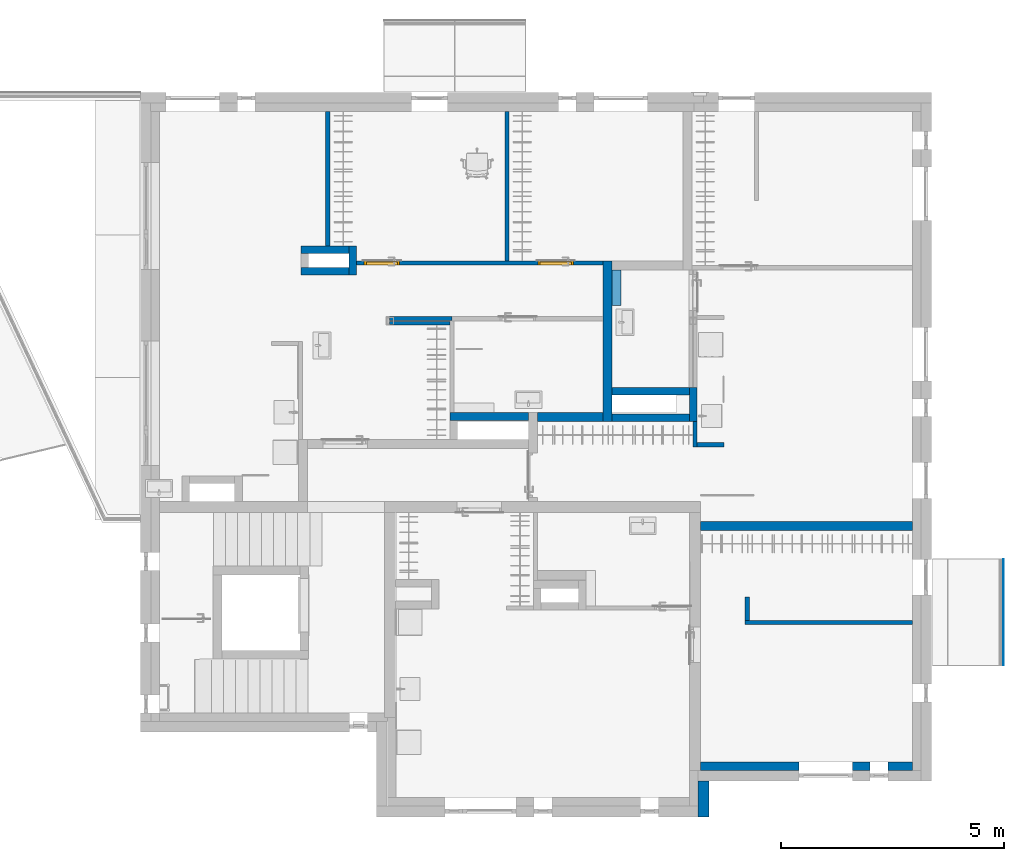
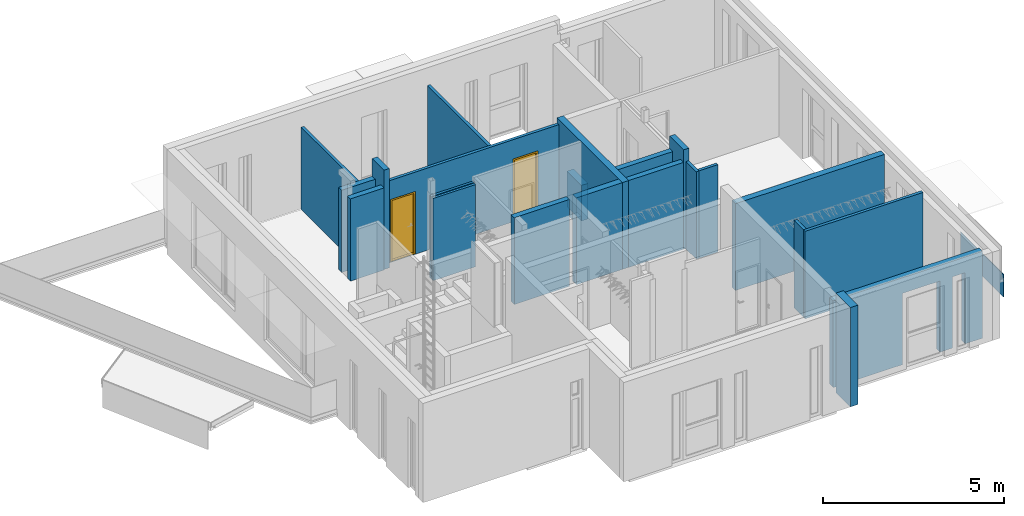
# One storey, part 4 of 42: 23 walls, 2 doors, 12 openings.
"""IFC2X3 building model written with IfcOpenShell, lengths in millimetres."""

from ifc_helpers import new_model, entity, si_unit, converted_unit, direction, frame, frame_2d, origin, place, context, subcontext, project, spatial, polyline, rectangle, extrude, clip, bounded_halfspace, faceted_brep, source, transform, mapped, material, layer, layer_set, layer_usage, type_object, type_shapes, element, fill, save


model = new_model("IFC2X3")

# Units and contexts
model_context = context("Model", 3, precision=0.01, world=origin(), true_north=direction((6.123233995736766e-17, 1.0)))
plan_context = context("Plan", 3, precision=0.01, world=origin(), true_north=direction((6.123233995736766e-17, 1.0)))
body_context = subcontext(model_context, "Body", "Model", "MODEL_VIEW")
ifc_project = project(units=[si_unit("LENGTHUNIT", "METRE", prefix="MILLI"), converted_unit("PLANEANGLEUNIT", "DEGREE", entity("IfcPlaneAngleMeasure", 0.017453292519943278), si_unit("PLANEANGLEUNIT", "RADIAN"), dimensions=[0, 0, 0, 0, 0, 0, 0]), si_unit("AREAUNIT", "SQUARE_METRE")], contexts=[model_context, plan_context])

# Site, building, storey
site_placement = place(None, origin())
site = spatial("IfcSite", under=ifc_project, at=site_placement, Name="Default", CompositionType="ELEMENT")
building_placement = place(site_placement, origin())
building = spatial("IfcBuilding", under=site, at=building_placement, CompositionType="ELEMENT")
storey_placement = place(building_placement, frame((0.0, 0.0, 9465.000076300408)))
storey = spatial("IfcBuildingStorey", under=building, at=storey_placement, Name="4K", CompositionType="ELEMENT", Elevation=9465.000076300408)

# Walls
ifc_material_1 = material(Name="_K. Väisviimistlus. Krohv. Valge")
ifc_layer_1 = layer(ifc_material_1, 5.0)
ifc_material_2 = material(Name="_K. Müüritis. Väikeplokk. Betoon-õõnesplokk")
ifc_layer_2 = layer(ifc_material_2, 190.00000000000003)
ifc_layer_3 = layer(ifc_material_1, 5.0)
ifc_layer_set_1 = layer_set([ifc_layer_1, ifc_layer_2, ifc_layer_3], Name="Basic Wall:SS-01. 190")
ifc_layer_usage_1 = layer_usage(ifc_layer_set_1, "AXIS2", "POSITIVE", -100.00000000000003)
wall_type_1 = type_object("IfcWallType", Name="Basic Wall:SS-01. 190", PredefinedType="STANDARD", material=ifc_layer_set_1)
wall_1_placement = place(storey_placement, frame((10050.0, 12046.0, 0.0), z_axis=(0.0, 0.0, 1.0), x_axis=(0.0, -1.0, 0.0)))
element("IfcWallStandardCase", 1, at=wall_1_placement, inside=storey, type_object=wall_type_1, material=ifc_layer_usage_1, Name="Basic Wall:SS-01. 190", ObjectType="Basic Wall:SS-01. 190", context=body_context, shape_type="SweptSolid", body=[
    extrude(rectangle(XDim=3605.9999999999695, YDim=200.0000000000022, at=frame_2d((1802.9999999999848, -4.973799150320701e-14), x_axis=(-1.0, 0.0))), origin(), (0.0, 0.0, 1.0), 2925.999923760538),
])
ifc_layer_usage_2 = layer_usage(ifc_layer_set_1, "AXIS2", "NEGATIVE", 100.00000000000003)
wall_2_placement = place(storey_placement, frame((8480.0, 8540.0, 0.0)))
element("IfcWallStandardCase", 2, at=wall_2_placement, inside=storey, type_object=wall_type_1, material=ifc_layer_usage_2, Name="Basic Wall:SS-01. 190", ObjectType="Basic Wall:SS-01. 190", context=body_context, shape_type="SweptSolid", body=[
    extrude(rectangle(XDim=1470.0000000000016, YDim=200.0, at=frame_2d((735.0000000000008, -1.6342482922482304e-13), x_axis=(-1.0, 0.0))), origin(), (0.0, 0.0, 1.0), 2925.999923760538),
])
ifc_layer_usage_3 = layer_usage(ifc_layer_set_1, "AXIS2", "NEGATIVE", 100.00000000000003)
wall_3_placement = place(storey_placement, frame((12144.993534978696, 6100.0, 0.0)))
element("IfcWallStandardCase", 3, at=wall_3_placement, inside=storey, type_object=wall_type_1, material=ifc_layer_usage_3, Name="Basic Wall:SS-01. 190", ObjectType="Basic Wall:SS-01. 190", context=body_context, shape_type="SweptSolid", body=[
    extrude(rectangle(XDim=4755.006465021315, YDim=200.0, at=frame_2d((2377.5032325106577, 7.815970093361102e-14), x_axis=(-1.0, 0.0))), origin(), (0.0, 0.0, 1.0), 2925.999923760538),
])

# Wall, openings
ifc_layer_4 = layer(ifc_material_2, 190.00000000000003)
ifc_layer_set_2 = layer_set([ifc_layer_4], Name="Basic Wall:Columbia 190mm")
ifc_layer_usage_4 = layer_usage(ifc_layer_set_2, "AXIS2", "NEGATIVE", 95.00000000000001)
wall_type_2 = type_object("IfcWallType", Name="Basic Wall:Columbia 190mm", PredefinedType="STANDARD", material=ifc_layer_set_2)
wall_4_placement = place(storey_placement, frame((16900.0, 705.0, 0.0), z_axis=(0.0, 0.0, 1.0), x_axis=(-1.0, 0.0, 0.0)))
wall_4 = element("IfcWallStandardCase", 4, at=wall_4_placement, inside=storey, type_object=wall_type_2, material=ifc_layer_usage_4, Name="Basic Wall:Columbia 190mm", ObjectType="Basic Wall:Columbia 190mm", context=body_context, shape_type="SweptSolid", body=[
    extrude(rectangle(XDim=4755.006465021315, YDim=190.0000000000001, at=frame_2d((2377.5032325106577, 7.105427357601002e-15), x_axis=(-1.0, 0.0))), origin(), (0.0, 0.0, 1.0), 2925.999923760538),
])
opening_1_placement = place(wall_4_placement, frame((16900.0, 705.0, 0.0)))
element("IfcOpeningElement", 5, at=opening_1_placement, cuts=wall_4, Name="Basic Wall:Columbia 190mm", ObjectType="Opening", context=body_context, shape_type="Brep", body=[
    faceted_brep([(-15950.0, -350.0, 2400.0), (-15950.0, -1044.0, 2400.0), (-15950.0, -1044.0, 0.0), (-15950.0, -460.0, 0.0), (-15950.0, -450.0, 0.0), (-15950.0, -350.0, 0.0), (-16350.0, -350.0, 2400.0), (-16350.0, -1044.0, 2400.0), (-16350.0, -350.0, 0.0), (-16350.0, -450.0, 0.0), (-16350.0, -460.0, 0.0), (-16350.0, -1044.0, 0.0)], [[[0, 1, 2, 3, 4, 5]], [[6, 7, 1, 0]], [[8, 9, 10, 11, 7, 6]], [[5, 4, 3, 2, 11, 10, 9, 8]], [[6, 0, 5, 8]], [[7, 11, 2, 1]]]),
])
opening_2_placement = place(wall_4_placement, frame((16900.0, 705.0, 0.0)))
element("IfcOpeningElement", 6, at=opening_2_placement, cuts=wall_4, Name="Basic Wall:Columbia 190mm", ObjectType="Opening", context=body_context, shape_type="Brep", body=[
    faceted_brep([(-14350.0, -350.0, 2400.0), (-14350.0, -1044.0, 2400.0), (-14350.0, -1044.0, 0.0), (-14350.0, -460.0, 0.0), (-14350.0, -450.0, 0.0), (-14350.0, -350.0, 0.0), (-15550.0, -350.0, 2400.0), (-15550.0, -1044.0, 2400.0), (-15550.0, -350.0, 0.0), (-15550.0, -450.0, 0.0), (-15550.0, -460.0, 0.0), (-15550.0, -1044.0, 0.0)], [[[0, 1, 2, 3, 4, 5]], [[6, 7, 1, 0]], [[8, 9, 10, 11, 7, 6]], [[5, 4, 3, 2, 11, 10, 9, 8]], [[6, 0, 5, 8]], [[7, 11, 2, 1]]]),
])

ifc_layer_5 = layer(ifc_material_1, 10.0)
ifc_material_3 = material(Name="_K. Soojustus. EPS Silver")
ifc_layer_6 = layer(ifc_material_3, 230.0)
ifc_layer_set_3 = layer_set([ifc_layer_5, ifc_layer_6], Name="Basic Wall:VS-01")
ifc_layer_usage_5 = layer_usage(ifc_layer_set_3, "AXIS2", "NEGATIVE", 120.0)
wall_type_3 = type_object("IfcWallType", Name="Basic Wall:VS-01", PredefinedType="STANDARD", material=ifc_layer_set_3)
wall_5_placement = place(storey_placement, frame((12210.0, 370.0, 0.0), z_axis=(0.0, 0.0, 1.0), x_axis=(0.0, -1.0, 0.0)))
wall_5 = element("IfcWallStandardCase", 7, at=wall_5_placement, inside=storey, type_object=wall_type_3, material=ifc_layer_usage_5, Name="Basic Wall:VS-01", ObjectType="Basic Wall:VS-01", context=body_context, shape_type="SweptSolid", body=[
    extrude(rectangle(XDim=799.9999999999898, YDim=240.00000000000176, at=frame_2d((399.9999999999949, 0.0), x_axis=(-1.0, 0.0))), origin(), (0.0, 0.0, 1.0), 3345.9999999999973),
])
opening_3_placement = place(wall_5_placement, frame((370.0, -12210.0, 3345.999923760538)))
element("IfcOpeningElement", 8, at=opening_3_placement, cuts=wall_5, Name="Basic Wall:VS-01", ObjectType="Opening", context=body_context, shape_type="Brep", body=[
    faceted_brep([(-13750.0, 12350.0, 2400.0), (-13750.0, 11656.0, 2400.0), (-13750.0, 11656.0, 0.0), (-13750.0, 12240.0, 0.0), (-13750.0, 12250.0, 0.0), (-13750.0, 12350.0, 0.0), (-14550.0, 12350.0, 2400.0), (-14550.0, 11656.0, 2400.0), (-14550.0, 12350.0, 0.0), (-14550.0, 12250.0, 0.0), (-14550.0, 12240.0, 0.0), (-14550.0, 11656.0, 0.0)], [[[0, 1, 2, 3, 4, 5]], [[6, 7, 1, 0]], [[8, 9, 10, 11, 7, 6]], [[5, 4, 3, 2, 11, 10, 9, 8]], [[6, 0, 5, 8]], [[7, 11, 2, 1]]]),
])
opening_4_placement = place(wall_5_placement, frame((370.0, -12210.0, 3345.999923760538)))
element("IfcOpeningElement", 9, at=opening_4_placement, cuts=wall_5, Name="Basic Wall:VS-01", ObjectType="Opening", context=body_context, shape_type="Brep", body=[
    faceted_brep([(-1900.0, 12350.0, 2400.0), (-1900.0, 11656.0, 2400.0), (-1900.0, 11656.0, 0.0), (-1900.0, 12240.0, 0.0), (-1900.0, 12250.0, 0.0), (-1900.0, 12350.0, 0.0), (-2700.0, 12350.0, 2400.0), (-2700.0, 11656.0, 2400.0), (-2700.0, 12350.0, 0.0), (-2700.0, 12250.0, 0.0), (-2700.0, 12240.0, 0.0), (-2700.0, 11656.0, 0.0)], [[[0, 1, 2, 3, 4, 5]], [[6, 7, 1, 0]], [[8, 9, 10, 11, 7, 6]], [[5, 4, 3, 2, 11, 10, 9, 8]], [[6, 0, 5, 8]], [[7, 11, 2, 1]]]),
])
opening_5_placement = place(wall_5_placement, frame((370.0, -12210.0, 3345.999923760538)))
element("IfcOpeningElement", 10, at=opening_5_placement, cuts=wall_5, Name="Basic Wall:VS-01", ObjectType="Opening", context=body_context, shape_type="Brep", body=[
    faceted_brep([(-5350.0, 12350.0, 2400.0), (-5350.0, 11656.0, 2400.0), (-5350.0, 11656.0, 0.0), (-5350.0, 12240.0, 0.0), (-5350.0, 12250.0, 0.0), (-5350.0, 12350.0, 0.0), (-6150.0, 12350.0, 2400.0), (-6150.0, 11656.0, 2400.0), (-6150.0, 12350.0, 0.0), (-6150.0, 12250.0, 0.0), (-6150.0, 12240.0, 0.0), (-6150.0, 11656.0, 0.0)], [[[0, 1, 2, 3, 4, 5]], [[6, 7, 1, 0]], [[8, 9, 10, 11, 7, 6]], [[5, 4, 3, 2, 11, 10, 9, 8]], [[6, 0, 5, 8]], [[7, 11, 2, 1]]]),
])
opening_6_placement = place(wall_5_placement, frame((370.0, -12210.0, 3345.999923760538)))
element("IfcOpeningElement", 11, at=opening_6_placement, cuts=wall_5, Name="Basic Wall:VS-01", ObjectType="Opening", context=body_context, shape_type="Brep", body=[
    faceted_brep([(-7240.0, 12350.0, 2400.0), (-7240.0, 11656.0, 2400.0), (-7240.0, 11656.0, 0.0), (-7240.0, 12240.0, 0.0), (-7240.0, 12250.0, 0.0), (-7240.0, 12350.0, 0.0), (-8440.0, 12350.0, 2400.0), (-8440.0, 11656.0, 2400.0), (-8440.0, 12350.0, 0.0), (-8440.0, 12250.0, 0.0), (-8440.0, 12240.0, 0.0), (-8440.0, 11656.0, 0.0)], [[[0, 1, 2, 3, 4, 5]], [[6, 7, 1, 0]], [[8, 9, 10, 11, 7, 6]], [[5, 4, 3, 2, 11, 10, 9, 8]], [[6, 0, 5, 8]], [[7, 11, 2, 1]]]),
])
opening_7_placement = place(wall_5_placement, frame((370.0, -12210.0, 3345.999923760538)))
element("IfcOpeningElement", 12, at=opening_7_placement, cuts=wall_5, Name="Basic Wall:VS-01", ObjectType="Opening", context=body_context, shape_type="Brep", body=[
    faceted_brep([(-12950.0, 12350.0, 2400.0), (-12950.0, 11656.0, 2400.0), (-12950.0, 11656.0, 0.0), (-12950.0, 12240.0, 0.0), (-12950.0, 12250.0, 0.0), (-12950.0, 12350.0, 0.0), (-13750.0, 12350.0, 2400.0), (-13750.0, 11656.0, 2400.0), (-13750.0, 12350.0, 0.0), (-13750.0, 12250.0, 0.0), (-13750.0, 12240.0, 0.0), (-13750.0, 11656.0, 0.0)], [[[0, 1, 2, 3, 4, 5]], [[6, 7, 1, 0]], [[8, 9, 10, 11, 7, 6]], [[5, 4, 3, 2, 11, 10, 9, 8]], [[6, 0, 5, 8]], [[7, 11, 2, 1]]]),
])
opening_8_placement = place(wall_5_placement, frame((370.0, -12210.0, 3345.999923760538)))
element("IfcOpeningElement", 13, at=opening_8_placement, cuts=wall_5, Name="Basic Wall:VS-01", ObjectType="Opening", context=body_context, shape_type="Brep", body=[
    faceted_brep([(-2700.0, 12350.0, 2400.0), (-2700.0, 11656.0, 2400.0), (-2700.0, 11656.0, 0.0), (-2700.0, 12240.0, 0.0), (-2700.0, 12250.0, 0.0), (-2700.0, 12350.0, 0.0), (-3500.0, 12350.0, 2400.0), (-3500.0, 11656.0, 2400.0), (-3500.0, 12350.0, 0.0), (-3500.0, 12250.0, 0.0), (-3500.0, 12240.0, 0.0), (-3500.0, 11656.0, 0.0)], [[[0, 1, 2, 3, 4, 5]], [[6, 7, 1, 0]], [[8, 9, 10, 11, 7, 6]], [[5, 4, 3, 2, 11, 10, 9, 8]], [[6, 0, 5, 8]], [[7, 11, 2, 1]]]),
])
opening_9_placement = place(wall_5_placement, frame((370.0, -12210.0, 0.0)))
element("IfcOpeningElement", 14, at=opening_9_placement, cuts=wall_5, Name="Basic Wall:VS-01", ObjectType="Opening", context=body_context, shape_type="Brep", body=[
    faceted_brep([(-3830.0, 12986.993534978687, 2100.0), (-3030.0, 12986.993534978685, 2100.0), (-3030.0, 12986.993534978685, 0.0), (-3830.0, 12986.993534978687, 0.0), (-3830.0, 10894.993534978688, 0.0), (-3830.0, 10894.993534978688, 2100.0), (-3030.0, 10894.993534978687, 0.0), (-3030.0, 10894.993534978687, 2100.0)], [[[0, 1, 2, 3]], [[3, 4, 5, 0]], [[2, 6, 4, 3]], [[1, 7, 6, 2]], [[5, 7, 1, 0]], [[7, 5, 4, 6]]]),
])
opening_10_placement = place(wall_5_placement, frame((370.0, -12210.0, 0.0)))
element("IfcOpeningElement", 15, at=opening_10_placement, cuts=wall_5, Name="Basic Wall:VS-01", ObjectType="Opening", context=body_context, shape_type="SweptSolid", body=[
    extrude(rectangle(XDim=2099.999999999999, YDim=2091.999999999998, at=frame_2d((0.0, 2.2737367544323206e-13), x_axis=(1.0, 0.0))), frame((-4256.0, 11104.993534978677, 1050.0), z_axis=(0.0, 1.0, 0.0), x_axis=(0.0, 0.0, -1.0)), (0.0, 0.0, 1.0), 800.0),
])

# Wall, openings, doors
ifc_material_4 = material(Name="_K. Ehitusplaat. Kipsplaat. Erikõva")
ifc_layer_7 = layer(ifc_material_4, 13.000000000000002)
ifc_material_5 = material(Name="_K. Soojustus. Mineraalvill")
ifc_layer_8 = layer(ifc_material_5, 66.0)
ifc_layer_9 = layer(ifc_material_4, 13.000000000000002)
ifc_layer_set_4 = layer_set([ifc_layer_7, ifc_layer_8, ifc_layer_9], Name="Basic Wall:SS-401")
ifc_layer_usage_6 = layer_usage(ifc_layer_set_4, "AXIS2", "NEGATIVE", 46.00000000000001)
wall_type_4 = type_object("IfcWallType", Name="Basic Wall:SS-401", PredefinedType="STANDARD", material=ifc_layer_set_4)
wall_6_placement = place(storey_placement, frame((4420.0, 12000.0, -20.0)))
wall_6 = element("IfcWallStandardCase", 16, at=wall_6_placement, inside=storey, type_object=wall_type_4, material=ifc_layer_usage_6, Name="Basic Wall:SS-401", ObjectType="Basic Wall:SS-401", context=body_context, shape_type="SweptSolid", body=[
    extrude(rectangle(XDim=5529.999999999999, YDim=92.00000000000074, at=frame_2d((2764.9999999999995, -2.1671553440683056e-13), x_axis=(-1.0, 0.0))), origin(), (0.0, 0.0, 1.0), 2769.999877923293),
])
opening_11_placement = place(wall_6_placement, frame((-4420.0, -12000.0, 20.0)))
opening_11 = element("IfcOpeningElement", 17, at=opening_11_placement, cuts=wall_6, Name="Basic Wall:SS-401", ObjectType="Opening", context=body_context, shape_type="Brep", body=[
    faceted_brep([(9294.0, 10954.0, 2100.0), (8494.0, 10954.0, 2100.0), (8494.0, 10954.0, 0.0), (9294.0, 10954.0, 0.0), (9294.0, 13046.0, 0.0), (9294.0, 13046.0, 2100.0), (8494.0, 13046.0, 0.0), (8494.0, 13046.0, 2100.0)], [[[0, 1, 2, 3]], [[3, 4, 5, 0]], [[2, 6, 4, 3]], [[1, 7, 6, 2]], [[5, 7, 1, 0]], [[7, 5, 4, 6]]]),
])
opening_12_placement = place(wall_6_placement, frame((-4420.0, -12000.0, 20.0)))
opening_12 = element("IfcOpeningElement", 18, at=opening_12_placement, cuts=wall_6, Name="Basic Wall:SS-401", ObjectType="Opening", context=body_context, shape_type="Brep", body=[
    faceted_brep([(5392.0, 10954.0, 2100.0), (4592.0, 10954.0, 2100.0), (4592.0, 10954.0, 0.0), (5392.0, 10954.0, 0.0), (5392.0, 13046.0, 0.0), (5392.0, 13046.0, 2100.0), (4592.0, 13046.0, 0.0), (4592.0, 13046.0, 2100.0)], [[[0, 1, 2, 3]], [[3, 4, 5, 0]], [[2, 6, 4, 3]], [[1, 7, 6, 2]], [[5, 7, 1, 0]], [[7, 5, 4, 6]]]),
])
ifc_material_6 = material(Name="_K. Puit. Peitsitud ja lakitud")
door_style = type_object("IfcDoorStyle", Name="HR_Generic_Hinged_Single:Default. Manteluks lävepakuga. 800 x 2100 mm. Right", ConstructionType="NOTDEFINED", OperationType="NOTDEFINED", ParameterTakesPrecedence=False, Sizeable=False, material=ifc_material_6)
shared_shape = source(origin(), body_context, "Body", "Brep", [
    faceted_brep([(765.0, -1000.0, 20.0), (35.0, -1000.0, 20.0), (35.0, -1030.0, 20.0), (50.0, -1030.0, 20.0), (50.0, -1092.0, 20.0), (750.0, -1092.0, 20.0), (750.0, -1030.0, 20.0), (765.0, -1030.0, 20.0), (35.0, -1000.0, 0.0), (765.0, -1000.0, 0.0), (765.0, -1030.0, 0.0), (750.0, -1030.0, 0.0), (750.0, -1092.0, 0.0), (50.0, -1092.0, 0.0), (50.0, -1030.0, 0.0), (35.0, -1030.0, 0.0)], [[[0, 1, 2, 3, 4, 5, 6, 7]], [[8, 9, 10, 11, 12, 13, 14, 15]], [[1, 0, 9, 8]], [[5, 4, 13, 12]], [[2, 1, 8, 15]], [[0, 7, 10, 9]], [[3, 14, 13, 4]], [[14, 3, 2, 15]], [[6, 11, 10, 7]], [[11, 6, 5, 12]]]),
    faceted_brep([(37.0, -1030.0, 2060.0), (37.0, -1030.0, 25.0), (763.0, -1030.0, 25.0), (763.0, -1030.0, 2060.0), (27.0, -990.0, 25.0), (27.0, -990.0, 2070.0), (773.0, -990.0, 2070.0), (773.0, -990.0, 25.0), (37.0, -1000.0, 2060.0), (37.0, -1000.0, 25.0), (27.0, -1000.0, 25.0), (773.0, -1000.0, 25.0), (763.0, -1000.0, 25.0), (763.0, -1000.0, 2060.0), (27.0, -1000.0, 2070.0), (773.0, -1000.0, 2070.0)], [[[0, 1, 2, 3]], [[4, 5, 6, 7]], [[1, 0, 8, 9]], [[2, 1, 9, 10, 4, 7, 11, 12]], [[3, 2, 12, 13]], [[0, 3, 13, 8]], [[14, 10, 9, 8, 13, 12, 11, 15]], [[6, 5, 14, 15]], [[7, 6, 15, 11]], [[5, 4, 10, 14]]]),
    faceted_brep([(800.0, -1092.0, 0.0), (750.0, -1092.0, 0.0), (750.0, -1030.0, 0.0), (765.0, -1030.0, 0.0), (765.0, -1000.0, 0.0), (800.0, -1000.0, 0.0), (800.0, -1092.0, 2100.0), (0.0, -1092.0, 2100.0), (0.0, -1092.0, 0.0), (50.0, -1092.0, 0.0), (50.0, -1092.0, 2050.0), (750.0, -1092.0, 2050.0), (750.0, -1030.0, 2050.0), (35.0, -1030.0, 2065.0), (765.0, -1030.0, 2065.0), (50.0, -1030.0, 2050.0), (50.0, -1030.0, 0.0), (35.0, -1030.0, 0.0), (765.0, -1000.0, 2065.0), (0.0, -1000.0, 0.0), (0.0, -1000.0, 2100.0), (800.0, -1000.0, 2100.0), (35.0, -1000.0, 2065.0), (35.0, -1000.0, 0.0)], [[[0, 1, 2, 3, 4, 5]], [[1, 0, 6, 7, 8, 9, 10, 11]], [[1, 11, 12, 2]], [[13, 14, 3, 2, 12, 15, 16, 17]], [[3, 14, 18, 4]], [[19, 20, 21, 5, 4, 18, 22, 23]], [[0, 5, 21, 6]], [[8, 19, 23, 17, 16, 9]], [[19, 8, 7, 20]], [[13, 17, 23, 22]], [[10, 9, 16, 15]], [[7, 6, 21, 20]], [[11, 10, 15, 12]], [[14, 13, 22, 18]]]),
])
type_shapes(door_style, [shared_shape])
door_1_placement = place(opening_11_placement, frame((8494.0, 13046.0, 0.0)))
door_1 = element("IfcDoor", 19, at=door_1_placement, inside=storey, type_object=door_style, material=ifc_material_6, Name="HR_Generic_Hinged_Single:Default. Manteluks lävepakuga. 800 x 2100 mm. Right", ObjectType="HR_Generic_Hinged_Single:Default. Manteluks lävepakuga. 800 x 2100 mm. Right", OverallHeight=2130.000000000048, OverallWidth=860.0000000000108, context=body_context, shape_type="MappedRepresentation", body=[
    mapped(shared_shape, transform((0.0, 0.0, 0.0), scale=1.0)),
])
fill(opening_11, door_1)
door_2_placement = place(opening_12_placement, frame((4592.0, 13046.0, 0.0)))
door_2 = element("IfcDoor", 20, at=door_2_placement, inside=storey, type_object=door_style, material=ifc_material_6, Name="HR_Generic_Hinged_Single:Default. Manteluks lävepakuga. 800 x 2100 mm. Right", ObjectType="HR_Generic_Hinged_Single:Default. Manteluks lävepakuga. 800 x 2100 mm. Right", OverallHeight=2130.000000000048, OverallWidth=860.0000000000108, context=body_context, shape_type="MappedRepresentation", body=[
    mapped(shared_shape, transform((0.0, 0.0, 0.0), scale=1.0)),
])
fill(opening_12, door_2)

# Walls
ifc_layer_usage_7 = layer_usage(ifc_layer_set_4, "AXIS2", "NEGATIVE", 46.00000000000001)
wall_7_placement = place(storey_placement, frame((7798.0, 12046.0, -20.0), z_axis=(0.0, 0.0, 1.0), x_axis=(0.0, 1.0, 0.0)))
element("IfcWallStandardCase", 21, at=wall_7_placement, inside=storey, type_object=wall_type_4, material=ifc_layer_usage_7, Name="Basic Wall:SS-401", ObjectType="Basic Wall:SS-401", context=body_context, shape_type="SweptSolid", body=[
    extrude(rectangle(XDim=3354.000000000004, YDim=92.00000000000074, at=frame_2d((1677.000000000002, 9.237055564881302e-14), x_axis=(-1.0, 0.0))), origin(), (0.0, 0.0, 1.0), 2769.999923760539),
])
ifc_layer_usage_8 = layer_usage(ifc_layer_set_4, "AXIS2", "NEGATIVE", 46.00000000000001)
wall_8_placement = place(storey_placement, frame((3776.0, 12380.0, -20.0), z_axis=(0.0, 0.0, 1.0), x_axis=(0.0, 1.0, 0.0)))
element("IfcWallStandardCase", 22, at=wall_8_placement, inside=storey, type_object=wall_type_4, material=ifc_layer_usage_8, Name="Basic Wall:SS-401", ObjectType="Basic Wall:SS-401", context=body_context, shape_type="SweptSolid", body=[
    extrude(rectangle(XDim=3019.9999999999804, YDim=91.99999999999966, at=frame_2d((1509.9999999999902, 8.526512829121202e-14), x_axis=(-1.0, 0.0))), origin(), (0.0, 0.0, 1.0), 2769.9998779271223),
])
ifc_layer_usage_9 = layer_usage(ifc_layer_set_4, "AXIS2", "NEGATIVE", 46.00000000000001)
wall_9_placement = place(storey_placement, frame((16900.0, 3934.0, -20.0), z_axis=(0.0, 0.0, 1.0), x_axis=(-1.0, 0.0, 0.0)))
element("IfcWallStandardCase", 23, at=wall_9_placement, inside=storey, type_object=wall_type_4, material=ifc_layer_usage_9, Name="Basic Wall:SS-401", ObjectType="Basic Wall:SS-401", context=body_context, shape_type="SweptSolid", body=[
    extrude(rectangle(XDim=3755.0064650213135, YDim=91.99999999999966, at=frame_2d((1877.5032325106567, -4.973799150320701e-14), x_axis=(-1.0, 0.0))), origin(), (0.0, 0.0, 1.0), 2945.9999999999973),
])
ifc_layer_usage_10 = layer_usage(ifc_layer_set_4, "AXIS2", "NEGATIVE", 46.00000000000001)
wall_10_placement = place(storey_placement, frame((13190.993534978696, 3980.0, -20.0), z_axis=(0.0, 0.0, 1.0), x_axis=(0.0, 1.0, 0.0)))
element("IfcWallStandardCase", 24, at=wall_10_placement, inside=storey, type_object=wall_type_4, material=ifc_layer_usage_10, Name="Basic Wall:SS-401", ObjectType="Basic Wall:SS-401", context=body_context, shape_type="SweptSolid", body=[
    extrude(rectangle(XDim=519.9999999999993, YDim=92.00000000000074, at=frame_2d((259.99999999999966, 4.369837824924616e-13), x_axis=(-1.0, 0.0))), origin(), (0.0, 0.0, 1.0), 2945.9999999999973),
])
ifc_layer_usage_11 = layer_usage(ifc_layer_set_4, "AXIS2", "NEGATIVE", 46.00000000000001)
wall_11_placement = place(storey_placement, frame((12022.0, 7874.0, -20.0), z_axis=(0.0, 0.0, 1.0), x_axis=(0.0, 1.0, 0.0)))
element("IfcWallStandardCase", 25, at=wall_11_placement, inside=storey, type_object=wall_type_4, material=ifc_layer_usage_11, Name="Basic Wall:SS-401", ObjectType="Basic Wall:SS-401", context=body_context, shape_type="SweptSolid", body=[
    extrude(rectangle(XDim=565.9999999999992, YDim=92.00000000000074, at=frame_2d((282.9999999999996, 4.760636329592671e-13), x_axis=(-1.0, 0.0))), origin(), (0.0, 0.0, 1.0), 2945.9999999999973),
])
ifc_layer_usage_12 = layer_usage(ifc_layer_set_4, "AXIS2", "NEGATIVE", 46.00000000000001)
wall_12_placement = place(storey_placement, frame((12068.0, 7920.0, -20.0)))
element("IfcWallStandardCase", 26, at=wall_12_placement, inside=storey, type_object=wall_type_4, material=ifc_layer_usage_12, Name="Basic Wall:SS-401", ObjectType="Basic Wall:SS-401", context=body_context, shape_type="SweptSolid", body=[
    extrude(rectangle(XDim=600.0000000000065, YDim=92.00000000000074, at=frame_2d((300.00000000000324, -2.4513724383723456e-13), x_axis=(-1.0, 0.0))), origin(), (0.0, 0.0, 1.0), 2945.9999999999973),
])
ifc_layer_10 = layer(ifc_material_4, 13.000000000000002)
ifc_layer_11 = layer(ifc_material_5, 66.0)
ifc_layer_set_5 = layer_set([ifc_layer_10, ifc_layer_11], Name="Basic Wall:SS-402")
ifc_layer_usage_13 = layer_usage(ifc_layer_set_5, "AXIS2", "POSITIVE", -39.50000000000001)
wall_type_5 = type_object("IfcWallType", Name="Basic Wall:SS-402", PredefinedType="STANDARD", material=ifc_layer_set_5)
wall_13_placement = place(storey_placement, frame((5161.0, 10646.499999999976, -20.0)))
element("IfcWallStandardCase", 27, at=wall_13_placement, inside=storey, type_object=wall_type_5, material=ifc_layer_usage_13, Name="Basic Wall:SS-402", ObjectType="Basic Wall:SS-402", context=body_context, shape_type="SweptSolid", body=[
    extrude(rectangle(XDim=1359.000000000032, YDim=78.99999999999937, at=frame_2d((679.500000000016, -2.8066438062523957e-13), x_axis=(-1.0, 0.0))), origin(), (0.0, 0.0, 1.0), 2769.9998779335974),
])
ifc_layer_usage_14 = layer_usage(ifc_layer_set_5, "AXIS2", "NEGATIVE", 39.50000000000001)
wall_14_placement = place(storey_placement, frame((5161.0, 10753.50000000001, -20.0)))
element("IfcWallStandardCase", 28, at=wall_14_placement, inside=storey, type_object=wall_type_5, material=ifc_layer_usage_14, Name="Basic Wall:SS-402", ObjectType="Basic Wall:SS-402", context=body_context, shape_type="SweptSolid", body=[
    extrude(rectangle(XDim=1405.0000000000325, YDim=78.99999999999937, at=frame_2d((702.5000000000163, 2.948752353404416e-13), x_axis=(-1.0, 0.0))), origin(), (0.0, 0.0, 1.0), 2769.9998779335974),
])
ifc_layer_12 = layer(ifc_material_1, 10.0)
ifc_material_7 = material(Name="_K. Müüritis. Väikeplokk. Kergkruusplokk")
ifc_layer_13 = layer(ifc_material_7, 150.0)
ifc_layer_14 = layer(ifc_material_1, 10.0)
ifc_layer_set_6 = layer_set([ifc_layer_12, ifc_layer_13, ifc_layer_14], Name="Basic Wall:SS-03. Šahti sein")
ifc_layer_usage_15 = layer_usage(ifc_layer_set_6, "AXIS2", "NEGATIVE", 85.00000000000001)
wall_type_6 = type_object("IfcWallType", Name="Basic Wall:SS-03. Šahti sein", PredefinedType="STANDARD", material=ifc_layer_set_6)
wall_15_placement = place(storey_placement, frame((3180.0, 12295.0, -20.0)))
element("IfcWallStandardCase", 29, at=wall_15_placement, inside=storey, type_object=wall_type_6, material=ifc_layer_usage_15, Name="Basic Wall:SS-03. Šahti sein", ObjectType="Basic Wall:SS-03. Šahti sein", context=body_context, shape_type="Clipping", body=[
    clip(extrude(rectangle(XDim=1070.0000000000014, YDim=170.00000000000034, at=frame_2d((535.0000000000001, -4.476419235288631e-13), x_axis=(-1.0, 0.0))), origin(), (0.0, 0.0, 1.0), 2769.999923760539), bounded_halfspace(frame((1070.0, -85.0, 0.0), z_axis=(0.0, 0.0, 1.0), x_axis=(0.0, 1.0, 0.0)), True, frame((1070.0, -85.0, 0.0), z_axis=(0.0, 0.0, 1.0), x_axis=(0.0, 1.0, 0.0)), polyline([(0.0, 0.0), (170.0, 0.0), (170.0, 428.0), (170.0, 520.0), (170.0, 1070.0), (0.0, 1070.0), (0.0, 900.0), (0.0, 0.0)]))),
])
ifc_layer_usage_16 = layer_usage(ifc_layer_set_6, "AXIS2", "NEGATIVE", 85.00000000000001)
wall_16_placement = place(storey_placement, frame((4335.0, 12380.0, 0.0), z_axis=(0.0, 0.0, 1.0), x_axis=(0.0, -1.0, 0.0)))
element("IfcWallStandardCase", 30, at=wall_16_placement, inside=storey, type_object=wall_type_6, material=ifc_layer_usage_16, Name="Basic Wall:SS-03. Šahti sein", ObjectType="Basic Wall:SS-03. Šahti sein", context=body_context, shape_type="SweptSolid", body=[
    extrude(rectangle(XDim=650.000000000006, YDim=170.00000000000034, at=frame_2d((325.000000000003, -9.947598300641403e-14), x_axis=(-1.0, 0.0))), origin(), (0.0, 0.0, 1.0), 3345.9999999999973),
])
ifc_layer_usage_17 = layer_usage(ifc_layer_set_6, "AXIS2", "POSITIVE", -85.00000000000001)
wall_17_placement = place(storey_placement, frame((3180.0, 11815.0, -20.0)))
element("IfcWallStandardCase", 31, at=wall_17_placement, inside=storey, type_object=wall_type_6, material=ifc_layer_usage_17, Name="Basic Wall:SS-03. Šahti sein", ObjectType="Basic Wall:SS-03. Šahti sein", context=body_context, shape_type="Clipping", body=[
    clip(extrude(rectangle(XDim=1070.0000000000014, YDim=170.00000000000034, at=frame_2d((535.0000000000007, 4.050093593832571e-13), x_axis=(-1.0, 0.0))), origin(), (0.0, 0.0, 1.0), 2769.999923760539), bounded_halfspace(frame((1070.0, -85.0, 0.0), z_axis=(0.0, 0.0, 1.0), x_axis=(0.0, 1.0, 0.0)), True, frame((1070.0, -85.0, 0.0), z_axis=(0.0, 0.0, 1.0), x_axis=(0.0, 1.0, 0.0)), polyline([(0.0, 0.0), (170.0, 0.0), (170.0, 900.0), (170.0, 1070.0), (0.0, 1070.0), (0.0, 0.0)]))),
])
ifc_layer_usage_18 = layer_usage(ifc_layer_set_6, "AXIS2", "NEGATIVE", 85.00000000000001)
wall_18_placement = place(storey_placement, frame((10150.0, 9125.0, 0.0)))
element("IfcWallStandardCase", 32, at=wall_18_placement, inside=storey, type_object=wall_type_6, material=ifc_layer_usage_18, Name="Basic Wall:SS-03. Šahti sein", ObjectType="Basic Wall:SS-03. Šahti sein", context=body_context, shape_type="SweptSolid", body=[
    extrude(rectangle(XDim=1748.0000000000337, YDim=170.00000000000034, at=frame_2d((874.0000000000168, -4.405364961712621e-13), x_axis=(-1.0, 0.0))), origin(), (0.0, 0.0, 1.0), 2925.999923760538),
])
ifc_layer_usage_19 = layer_usage(ifc_layer_set_6, "AXIS2", "NEGATIVE", 85.00000000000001)
wall_19_placement = place(storey_placement, frame((11983.0, 9210.0, 0.0), z_axis=(0.0, 0.0, 1.0), x_axis=(0.0, -1.0, 0.0)))
element("IfcWallStandardCase", 33, at=wall_19_placement, inside=storey, type_object=wall_type_6, material=ifc_layer_usage_19, Name="Basic Wall:SS-03. Šahti sein", ObjectType="Basic Wall:SS-03. Šahti sein", context=body_context, shape_type="SweptSolid", body=[
    extrude(rectangle(XDim=770.0000000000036, YDim=170.00000000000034, at=frame_2d((385.0000000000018, 5.258016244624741e-13), x_axis=(-1.0, 0.0))), origin(), (0.0, 0.0, 1.0), 3345.9999999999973),
])
ifc_layer_usage_20 = layer_usage(ifc_layer_set_6, "AXIS2", "NEGATIVE", 85.00000000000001)
wall_20_placement = place(storey_placement, frame((6520.0, 8555.0, 0.0)))
element("IfcWallStandardCase", 34, at=wall_20_placement, inside=storey, type_object=wall_type_6, material=ifc_layer_usage_20, Name="Basic Wall:SS-03. Šahti sein", ObjectType="Basic Wall:SS-03. Šahti sein", context=body_context, shape_type="SweptSolid", body=[
    extrude(rectangle(XDim=1760.0000000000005, YDim=170.00000000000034, at=frame_2d((880.0000000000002, 1.2789769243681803e-13), x_axis=(-1.0, 0.0))), origin(), (0.0, 0.0, 1.0), 2925.999923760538),
])
ifc_layer_usage_21 = layer_usage(ifc_layer_set_6, "AXIS2", "NEGATIVE", 85.00000000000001)
wall_21_placement = place(storey_placement, frame((10150.0, 8525.0, 0.0)))
element("IfcWallStandardCase", 35, at=wall_21_placement, inside=storey, type_object=wall_type_6, material=ifc_layer_usage_21, Name="Basic Wall:SS-03. Šahti sein", ObjectType="Basic Wall:SS-03. Šahti sein", context=body_context, shape_type="SweptSolid", body=[
    extrude(rectangle(XDim=1748.0000000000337, YDim=170.00000000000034, at=frame_2d((874.0000000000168, 3.055333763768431e-13), x_axis=(-1.0, 0.0))), origin(), (0.0, 0.0, 1.0), 2925.999923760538),
])
ifc_material_8 = material(Name="_K. Välisviimistlus. Alumiinium-komposiitplaat")
ifc_layer_15 = layer(ifc_material_8, 4.0)
ifc_material_9 = material(Name="_K. Õhk. Roov. Fassaadikatte alusroov. Horisontaalne. 25 mm")
ifc_layer_16 = layer(ifc_material_9, 16.0)
ifc_layer_set_7 = layer_set([ifc_layer_15, ifc_layer_16], Name="Basic Wall:VS-komposiit")
ifc_layer_usage_22 = layer_usage(ifc_layer_set_7, "AXIS2", "NEGATIVE", 10.000000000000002)
wall_type_7 = type_object("IfcWallType", Name="Basic Wall:VS-komposiit", PredefinedType="STANDARD")
wall_22_placement = place(storey_placement, frame((18942.0, 5351.353411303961, -762.5000763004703), z_axis=(0.0, 0.0, 1.0), x_axis=(0.0, -1.0, 0.0)))
element("IfcWallStandardCase", 36, at=wall_22_placement, inside=storey, type_object=wall_type_7, material=ifc_layer_usage_22, Name="Basic Wall:VS-komposiit", ObjectType="Basic Wall:VS-komposiit", context=body_context, shape_type="SweptSolid", body=[
    extrude(rectangle(XDim=2379.349331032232, YDim=19.999999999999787, at=frame_2d((1189.674665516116, 9.174883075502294e-13), x_axis=(-1.0, 0.0))), origin(), (0.0, 0.0, 1.0), 762.5000763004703),
])
ifc_layer_17 = layer(ifc_material_4, 13.000000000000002)
ifc_material_10 = material(Name="_K. Õhk. Roov. Fassaadikatte alusroov. Vertikaalne. 25 mm")
ifc_layer_18 = layer(ifc_material_10, 200.0)
ifc_layer_set_8 = layer_set([ifc_layer_17, ifc_layer_18], Name="Basic Wall:SS-403")
ifc_layer_usage_23 = layer_usage(ifc_layer_set_8, "AXIS2", "POSITIVE", -106.5)
wall_type_8 = type_object("IfcWallType", Name="Basic Wall:SS-403", PredefinedType="STANDARD", material=ifc_layer_set_8)
wall_23_placement = place(storey_placement, frame((10256.499999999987, 11046.0, -20.0), z_axis=(0.0, 0.0, 1.0), x_axis=(0.0, 1.0, 0.0)))
element("IfcWallStandardCase", 37, at=wall_23_placement, inside=storey, type_object=wall_type_8, material=ifc_layer_usage_23, Name="Basic Wall:SS-403", ObjectType="Basic Wall:SS-403", context=body_context, shape_type="SweptSolid", body=[
    extrude(rectangle(XDim=799.9999999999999, YDim=212.99999999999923, at=frame_2d((399.99999999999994, 8.384404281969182e-13), x_axis=(-1.0, 0.0))), origin(), (0.0, 0.0, 1.0), 1200.0),
])

save(model, "model.ifc")
